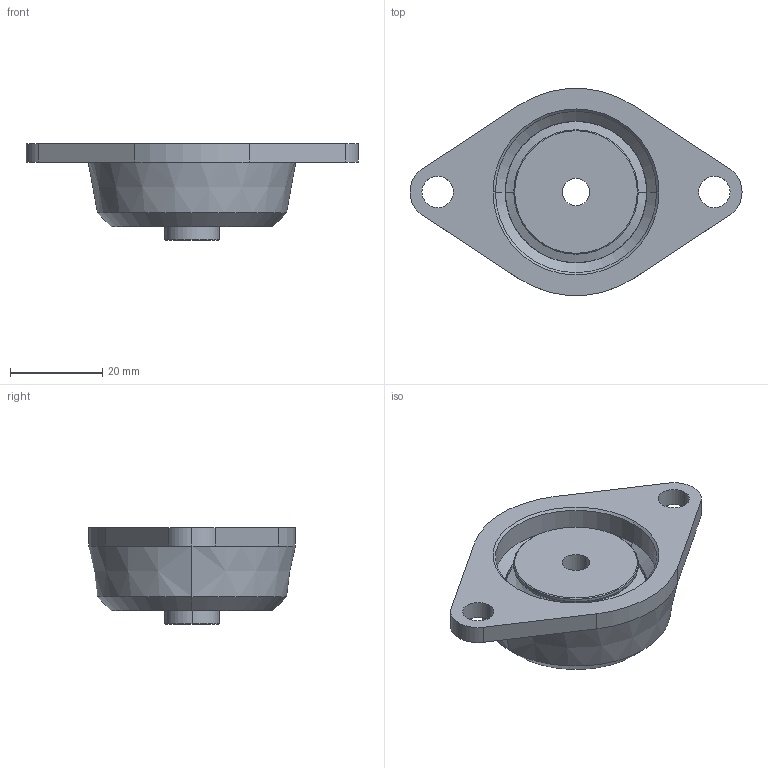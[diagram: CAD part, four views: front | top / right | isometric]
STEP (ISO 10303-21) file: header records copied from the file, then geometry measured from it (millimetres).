
FILE_DESCRIPTION(('STEP AP214'),'1');
FILE_NAME('U:/Inhalte (Daten)/Content neue Seite/CAD Files/EluFlex_40_DE.stp','2014-08-27T14:32:53',(' '),(' '),'Spatial InterOp 3D',' ',' ');
FILE_SCHEMA(('automotive_design'));
Length unit declared in the file: millimetre
Products named in the file (1): 1
Bounding box: 72 x 44.84 x 21 mm (x, y, z)
Volume: 21574.7 mm3; surface area: 9174.2 mm2
Topology: 1 solids, 2 shells, 85 faces, 182 edges, 102 vertices
Faces by surface type: torus 26, cylinder 26, cone 22, plane 11
Entity records: 2323 total; most frequent: DIRECTION 476, CARTESIAN_POINT 370, ORIENTED_EDGE 364, AXIS2_PLACEMENT_3D 208, EDGE_CURVE 182, CIRCLE 122, VERTEX_POINT 102, EDGE_LOOP 94
